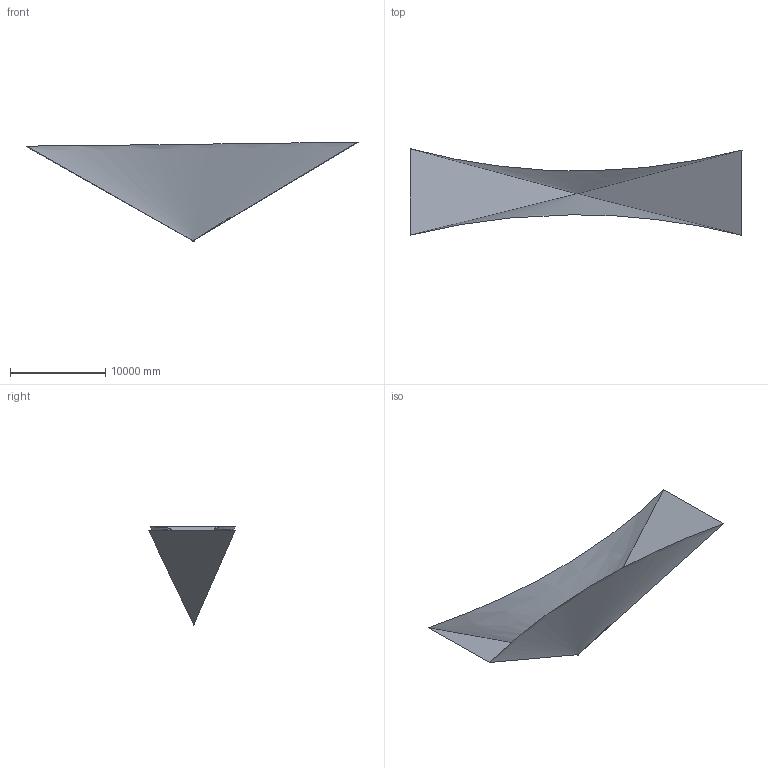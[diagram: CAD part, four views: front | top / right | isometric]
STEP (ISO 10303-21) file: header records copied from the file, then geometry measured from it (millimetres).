
FILE_DESCRIPTION(('CATIA V5 STEP Exchange','CAx-IF Rec.Pracs.--- Composite Materials ---3.4---2017-06-13'),'2;1');
FILE_NAME('D:\HuaweiMoveData\Users\Lm\Desktop\3D结构数据\AD2-S-X3_ASSY-20240506.stp','2024-05-06T13:32:51+00:00',('none'),('none'),'CATIA Version 5-6 Release 2020','CATIA V5 STEP AP203 v1','none');
FILE_SCHEMA(('CONFIG_CONTROL_DESIGN'));
Products named in the file (9): Assy_Root; 230602000_ASSY-20240306; 230602000_ASSY-20240306.stp; 220301002_ASM.stp; 100406215_ASM.stp; COT001-08S1X-XX_STP_ASM.stp; 220301001_ASM.stp; 220302001_ASM.stp; 200506001_ASM.stp
Assembly tree (28 placements, depth 7):
  Assy_Root
    230602000_ASSY-20240306
      230602000_ASSY-20240306.stp
        #73  x2
        #1606
        220301002_ASM.stp
          #4207  x4
          #5525
          100406215_ASM.stp
            COT001-08S1X-XX_STP_ASM.stp
              #191662
        #4207  x5
        220301001_ASM.stp
          220302001_ASM.stp
            #304914
            #399052
          #650462  x2
          200506001_ASM.stp
            #651727
      #665475
Bounding box: 34857.66 x 9084.81 x 10481.15 mm (x, y, z)
Surface area: 543309198.4 mm2
Topology: 17 solids, 82 shells, 7803 faces, 21419 edges, 13754 vertices
Faces by surface type: plane 2557, cylinder 2315, bspline 1896, torus 519, cone 336, sphere 180
Entity records: 668260 total; most frequent: CARTESIAN_POINT 512286, ORIENTED_EDGE 40457, EDGE_CURVE 20337, DIRECTION 20053, VERTEX_POINT 13176, VECTOR 8466, LINE 8466, EDGE_LOOP 7699
